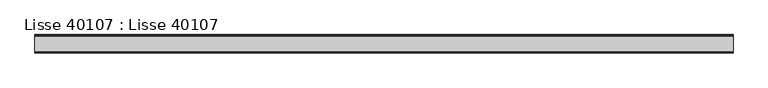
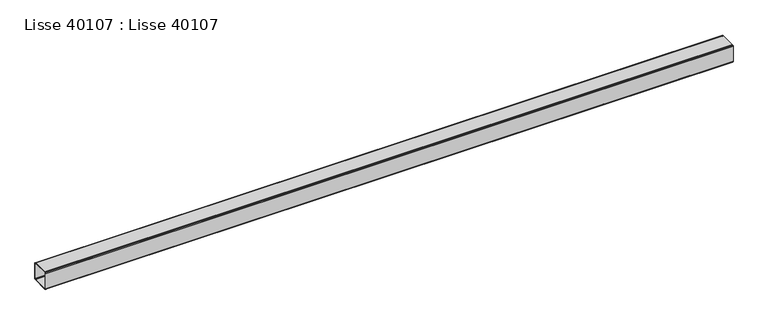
"""IFC4 building model written with IfcOpenShell, lengths in millimetres: beam geometry, Lisse 40107 : Lisse 40107."""

from ifc_helpers import new_model, si_unit, frame, origin, place, context, project, spatial, polyline, outline, extrude, source, transform, mapped, element, save


def lisse_40107_lisse_40107_23017072(model_context):
    return source(origin(), model_context, "Body", "SweptSolid", [
        extrude(outline(polyline([(-38549.0, 8319.2453687), (-38461.0, 8319.2453687), (-38458.0, 8318.4415211), (-38455.8038476, 8316.2453687), (-38455.0, 8313.2453687), (-38455.0, 8225.2453687), (-38455.8038476, 8222.2453687), (-38458.0, 8220.0492163), (-38461.0, 8219.2453687), (-38549.0, 8219.2453687), (-38552.0, 8220.0492163), (-38554.1961524, 8222.2453687), (-38555.0, 8225.2453687), (-38555.0, 8313.2453687), (-38554.1961524, 8316.2453687), (-38552.0, 8318.4415211), (-38549.0, 8319.2453687)]), holes=[polyline([(-38551.0, 8311.2453687), (-38551.0, 8227.2453687), (-38550.4641016, 8225.2453687), (-38549.0, 8223.7812671), (-38547.0, 8223.2453687), (-38463.0, 8223.2453687), (-38461.0, 8223.7812671), (-38459.5358984, 8225.2453687), (-38459.0, 8227.2453687), (-38459.0, 8311.2453687), (-38459.5358984, 8313.2453687), (-38461.0, 8314.7094703), (-38463.0, 8315.2453687), (-38547.0, 8315.2453687), (-38549.0, 8314.7094703), (-38550.4641016, 8313.2453687), (-38551.0, 8311.2453687)])]), frame((7654.9999999, 0.0, 0.0), z_axis=(1.0, 0.0, 0.0), x_axis=(0.0, 1.0, 0.0)), (0.0, 0.0, 1.0), 3792.5),
    ])


if __name__ == "__main__":
    model = new_model("IFC4")
    model_context = context("Model", 3, world=origin())
    ifc_project = project(units=[si_unit("LENGTHUNIT", "METRE", prefix="MILLI")], contexts=[model_context])
    site = spatial("IfcSite", under=ifc_project)
    building = spatial("IfcBuilding", under=site)
    placement = place(None, origin())
    lisse_40107_lisse_40107_shape = lisse_40107_lisse_40107_23017072(model_context)
    element("IfcBeam", 1, ObjectType="Lisse 40107 : Lisse 40107", at=placement, inside=building, context=model_context, shape_type="MappedRepresentation", body=[
        mapped(lisse_40107_lisse_40107_shape, transform((0.0, 0.0, 0.0), x_axis=(1.0, 0.0, 0.0), y_axis=(0.0, 1.0, 0.0), z_axis=(0.0, 0.0, 1.0))),
    ])
    save(model, "model.ifc")
